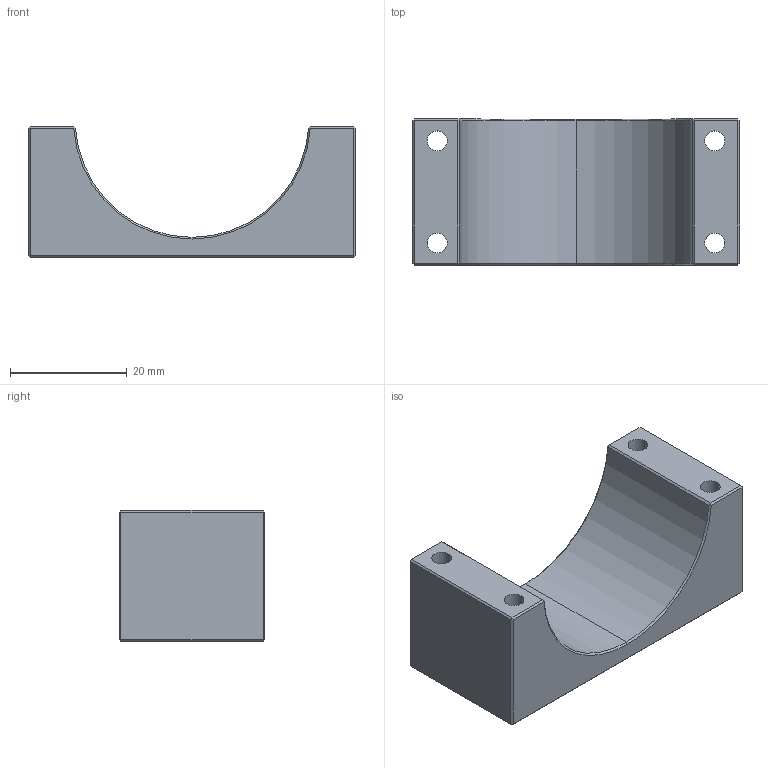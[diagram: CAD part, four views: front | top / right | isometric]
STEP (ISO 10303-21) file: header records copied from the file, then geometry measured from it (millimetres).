
FILE_DESCRIPTION (( 'STEP AP214' ), '1' );
FILE_NAME ('標厥噩芛奻.STEP', '2026-09-01T01:51:54', ( '' ), ( '' ), 'SwSTEP 2.0', 'SolidWorks 2024', '' );
FILE_SCHEMA (( 'AUTOMOTIVE_DESIGN' ));
Length unit declared in the file: millimetre
Products named in the file (1): 夹持镜头上
Bounding box: 56 x 25 x 22.5 mm (x, y, z)
Volume: 15334 mm3; surface area: 6838.8 mm2
Topology: 1 solids, 1 shells, 68 faces, 141 edges, 79 vertices
Faces by surface type: plane 39, cylinder 18, cone 11
Entity records: 1795 total; most frequent: DIRECTION 322, CARTESIAN_POINT 301, ORIENTED_EDGE 282, EDGE_CURVE 141, AXIS2_PLACEMENT_3D 116, LINE 90, VECTOR 90, EDGE_LOOP 80
